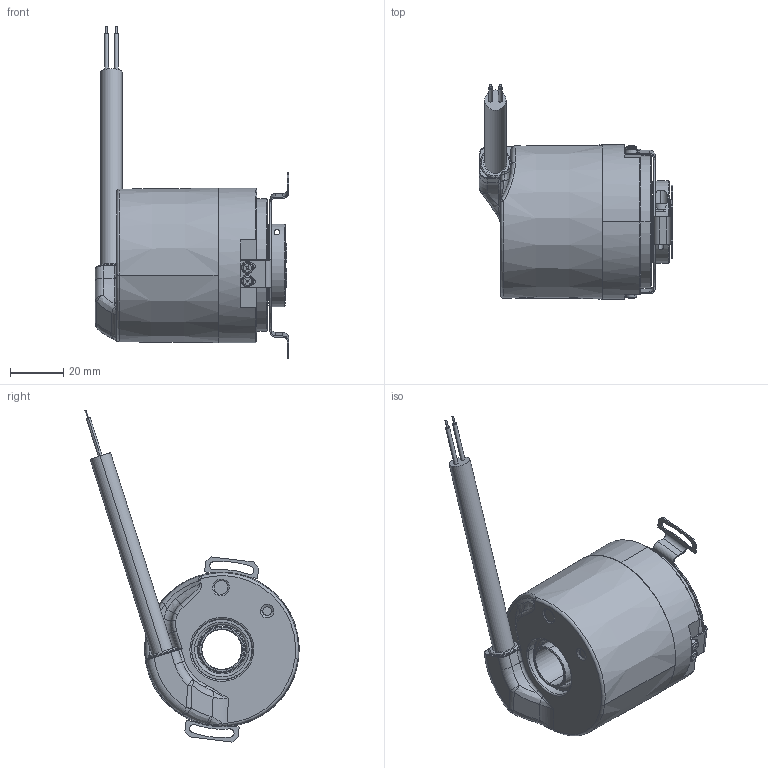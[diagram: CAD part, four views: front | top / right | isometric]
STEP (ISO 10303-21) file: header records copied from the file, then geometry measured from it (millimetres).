
FILE_DESCRIPTION (( 'STEP AP214' ), '1' );
FILE_NAME ('8.F5883.56XE.B721.STEP', '2014-09-02T06:54:36', ( 'LauferA' ), ( 'Microsoft' ), 'SwSTEP 2.0', 'SolidWorks 2013', '' );
FILE_SCHEMA (( 'AUTOMOTIVE_DESIGN' ));
Length unit declared in the file: millimetre
Products named in the file (1): 8.F5883.56XE.B721
Bounding box: 72.47 x 80.39 x 124.55 mm (x, y, z)
Surface area: 30963.4 mm2 (no closed solid volume)
Topology: 0 solids, 18 shells, 366 faces, 1030 edges, 667 vertices
Faces by surface type: plane 133, cylinder 119, cone 48, torus 40, bspline 23, sphere 3
Entity records: 16745 total; most frequent: CARTESIAN_POINT 3307, DIRECTION 2055, ORIENTED_EDGE 1788, EDGE_CURVE 1027, AXIS2_PLACEMENT_3D 790, VERTEX_POINT 667, VECTOR 475, LINE 475
